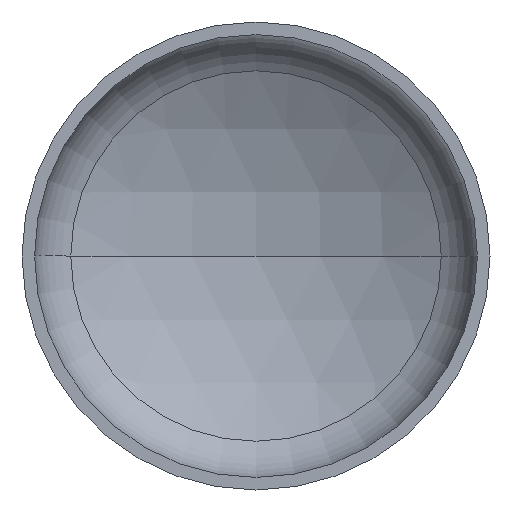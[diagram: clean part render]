
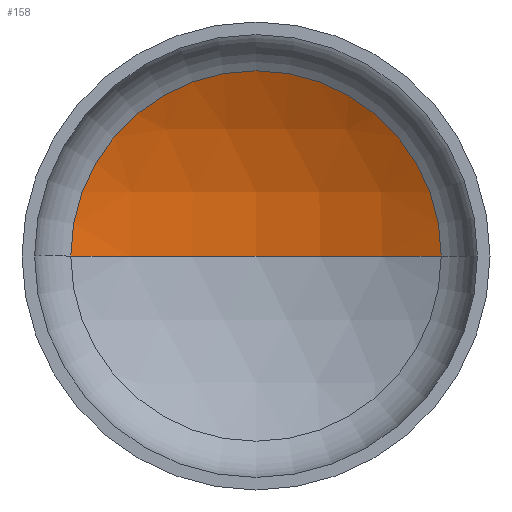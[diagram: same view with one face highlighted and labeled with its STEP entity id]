
A CAD part, front view. The second image highlights one B-rep face of the part: STEP entity #158.
In plain terms, the highlighted spherical face has radius 2560 mm.
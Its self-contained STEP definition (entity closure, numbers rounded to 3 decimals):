
#5 = VERTEX_POINT ( 'NONE', #215 ) ;
#14 = AXIS2_PLACEMENT_3D ( 'NONE', #402, #33, #20 ) ;
#15 = AXIS2_PLACEMENT_3D ( 'NONE', #96, #123, #117 ) ;
#17 = AXIS2_PLACEMENT_3D ( 'NONE', #308, #134, #89 ) ;
#20 = DIRECTION ( 'NONE',  ( 1., 0., 0. ) ) ;
#33 = DIRECTION ( 'NONE',  ( 0., 0., 1. ) ) ;
#36 = AXIS2_PLACEMENT_3D ( 'NONE', #167, #187, #260 ) ;
#89 = DIRECTION ( 'NONE',  ( 1., 0., 0. ) ) ;
#96 = CARTESIAN_POINT ( 'NONE',  ( 0., -1698.979, 0. ) ) ;
#115 = CIRCLE ( 'NONE', #15, 2560. ) ;
#117 = DIRECTION ( 'NONE',  ( -1., 0., 0. ) ) ;
#123 = DIRECTION ( 'NONE',  ( 0., 0., -1. ) ) ;
#129 = ORIENTED_EDGE ( 'NONE', *, *, #319, .T. ) ;
#134 = DIRECTION ( 'NONE',  ( 0., -1., 0. ) ) ;
#135 = CARTESIAN_POINT ( 'NONE',  ( -1266.396, 525.845, 0. ) ) ;
#139 = SPHERICAL_SURFACE ( 'NONE', #36, 2560. ) ;
#145 = ORIENTED_EDGE ( 'NONE', *, *, #326, .F. ) ;
#158 = ADVANCED_FACE ( 'NONE', ( #273 ), #139, .F. ) ;
#167 = CARTESIAN_POINT ( 'NONE',  ( 0., -1698.979, 0. ) ) ;
#187 = DIRECTION ( 'NONE',  ( 0., 0., -1. ) ) ;
#215 = CARTESIAN_POINT ( 'NONE',  ( 1266.396, 525.845, 0. ) ) ;
#247 = CIRCLE ( 'NONE', #17, 1266.396 ) ;
#250 = VERTEX_POINT ( 'NONE', #380 ) ;
#260 = DIRECTION ( 'NONE',  ( -1., 0., 0. ) ) ;
#273 = FACE_OUTER_BOUND ( 'NONE', #329, .T. ) ;
#308 = CARTESIAN_POINT ( 'NONE',  ( 0., 525.845, 0. ) ) ;
#315 = EDGE_CURVE ( 'NONE', #5, #399, #247, .T. ) ;
#319 = EDGE_CURVE ( 'NONE', #250, #5, #115, .T. ) ;
#326 = EDGE_CURVE ( 'NONE', #250, #399, #378, .T. ) ;
#329 = EDGE_LOOP ( 'NONE', ( #145, #129, #389 ) ) ;
#378 = CIRCLE ( 'NONE', #14, 2560. ) ;
#380 = CARTESIAN_POINT ( 'NONE',  ( 0., 861.021, 0. ) ) ;
#389 = ORIENTED_EDGE ( 'NONE', *, *, #315, .T. ) ;
#399 = VERTEX_POINT ( 'NONE', #135 ) ;
#402 = CARTESIAN_POINT ( 'NONE',  ( 0., -1698.979, 0. ) ) ;
